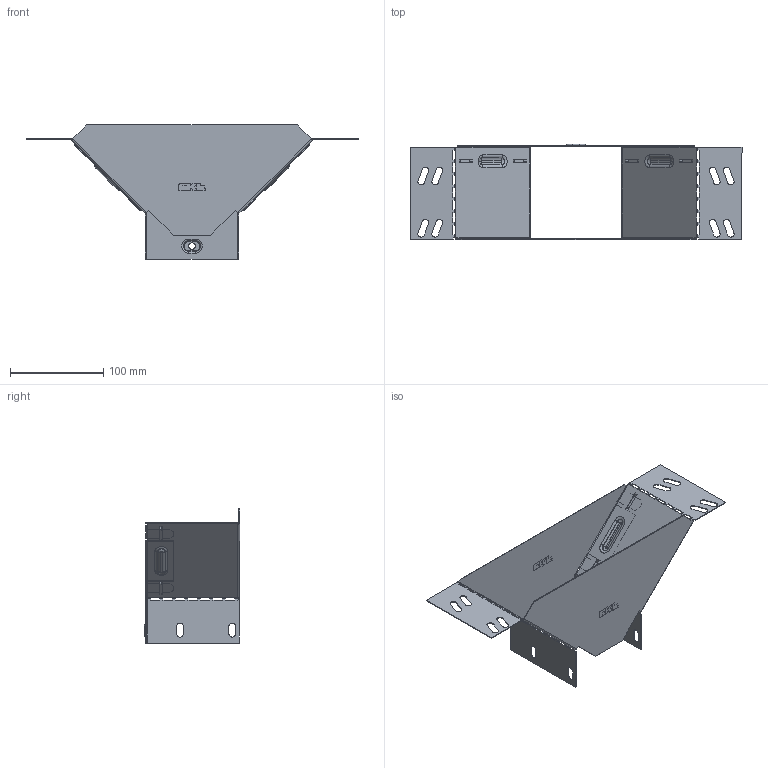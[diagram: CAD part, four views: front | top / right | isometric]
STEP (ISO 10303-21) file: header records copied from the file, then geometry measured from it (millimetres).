
FILE_DESCRIPTION (( 'STEP AP214' ), '1' );
FILE_NAME ('tn10010008_捘.STEP', '2019-06-10T08:01:39', ( '砐錪賧瘔蠈錪 Windows' ), ( '' ), 'SwSTEP 2.0', 'SolidWorks 2018', '' );
FILE_SCHEMA (( 'AUTOMOTIVE_DESIGN' ));
Length unit declared in the file: millimetre
Products named in the file (1): tn10010008_捘
Bounding box: 356.02 x 102.4 x 144 mm (x, y, z)
Volume: 66346.6 mm3; surface area: 169081.6 mm2
Topology: 2 solids, 2 shells, 678 faces, 1948 edges, 1232 vertices
Faces by surface type: plane 418, cylinder 202, torus 40, bspline 18
Entity records: 22987 total; most frequent: CARTESIAN_POINT 4817, ORIENTED_EDGE 3896, DIRECTION 3698, EDGE_CURVE 1948, LINE 1448, VECTOR 1448, VERTEX_POINT 1232, AXIS2_PLACEMENT_3D 1125
